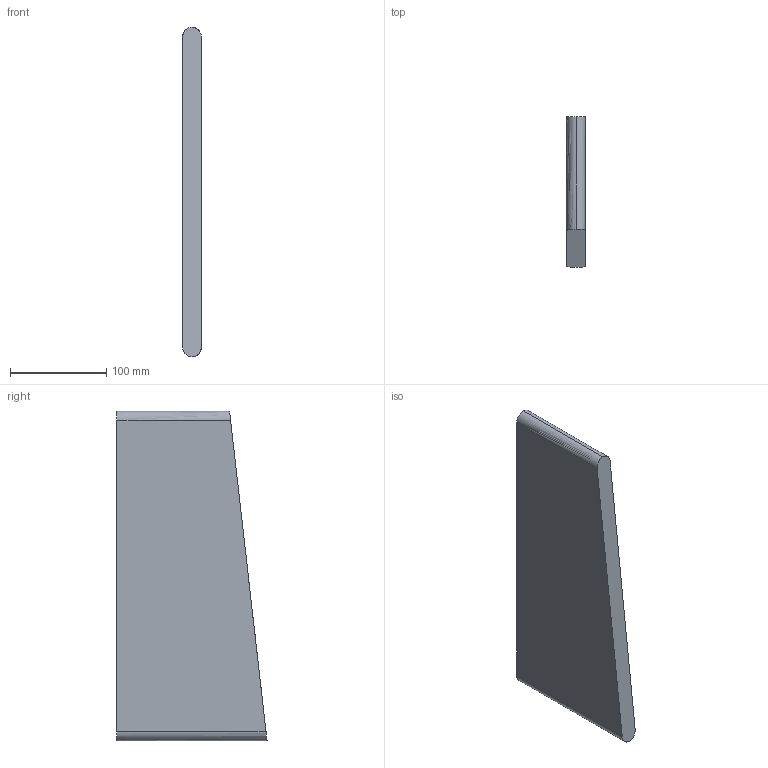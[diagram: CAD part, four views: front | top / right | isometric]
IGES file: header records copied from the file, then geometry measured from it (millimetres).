
Start section:  PTC IGES file: C:\Documents and Settings\Brad\Desktop\IGES\brace_top_fr ont.igs
Global section: file name: C:\Documents and Settings\Brad\Desktop\IGES\brace_top_front.igs; native system: Brad by Parametric Technology Corporation; preprocessor: 2003250; author: Unknown; organization: PTC; date: 040521.142625; units: inch
Bounding box: 19.05 x 156.21 x 342.9 mm (x, y, z)
Volume: 882012.4 mm3; surface area: 109638.1 mm2
Topology: 1 solids, 1 shells, 8 faces, 18 edges, 12 vertices
Faces by surface type: bspline 4, revolution 4
